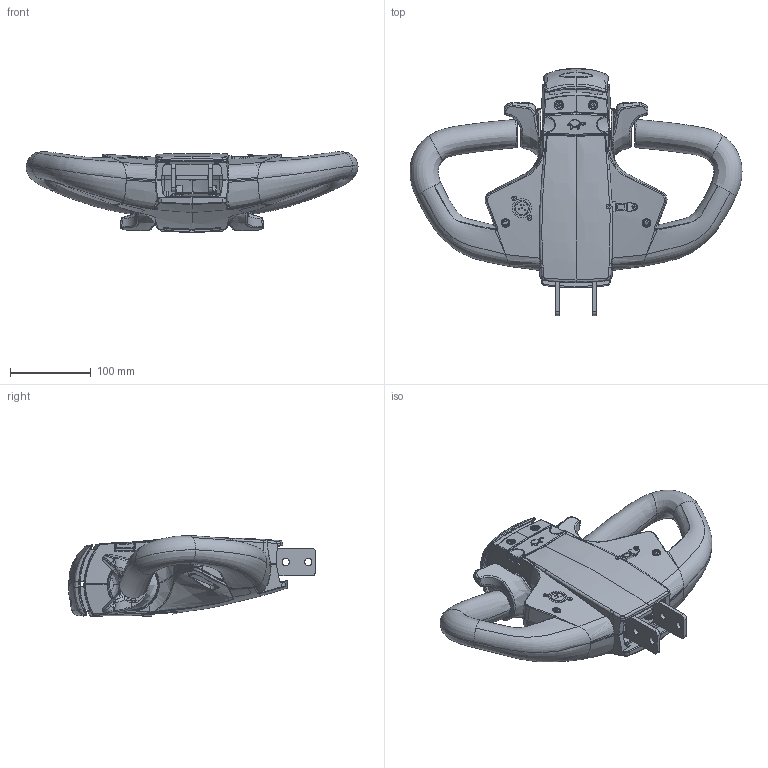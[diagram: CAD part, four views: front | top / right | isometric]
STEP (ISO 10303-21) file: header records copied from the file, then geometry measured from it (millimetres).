
FILE_DESCRIPTION (( 'STEP AP214' ), '1' );
FILE_NAME ('A_200750.STEP', '2013-03-08T17:54:27', ( '' ), ( '' ), 'SwSTEP 2.0', 'SolidWorks 2011', '' );
FILE_SCHEMA (( 'AUTOMOTIVE_DESIGN' ));
Length unit declared in the file: millimetre
Products named in the file (1): A_200750
Bounding box: 411.9 x 306.71 x 100.2 mm (x, y, z)
Surface area: 285935 mm2 (no closed solid volume)
Topology: 0 solids, 40 shells, 1072 faces, 4193 edges, 3053 vertices
Faces by surface type: bspline 694, plane 195, cylinder 103, cone 78, torus 2
Entity records: 215828 total; most frequent: CARTESIAN_POINT 177271, ORIENTED_EDGE 6531, EDGE_CURVE 4165, VERTEX_POINT 3051, DIRECTION 3012, B_SPLINE_CURVE_WITH_KNOTS 2488, EDGE_LOOP 1151, UNCERTAINTY_MEASURE_WITH_UNIT 1071
